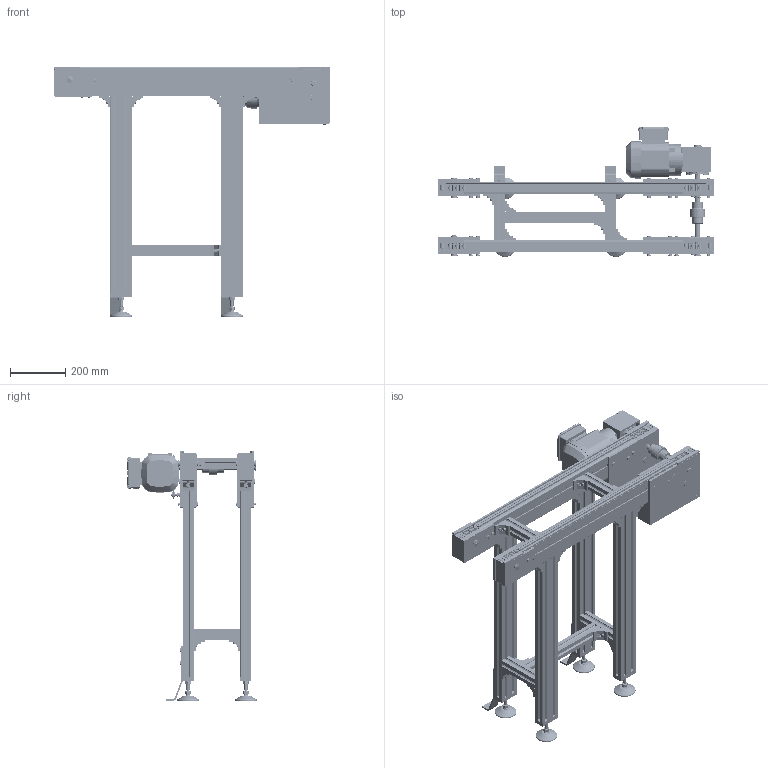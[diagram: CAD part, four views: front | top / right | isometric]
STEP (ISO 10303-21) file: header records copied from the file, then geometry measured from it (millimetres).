
FILE_DESCRIPTION(/* description */ (''),/* implementation_level */ '2;1');
FILE_NAME(/* name */ 'C:\Marketing\01_Versamove-SPU_STEP-Dateien-Homepage\VersamoveStandard\B240\STEP-Dateien\Staurollenförderer_SRF-P-2045_B240_L1000.stp',/* time_stamp */ '2016-12-15T14:24:05+01:00',/* author */ ('herbert.engels'),/* organization */ (''),/* preprocessor_version */ 'ST-DEVELOPER v15.6',/* originating_system */ 'Autodesk Inventor 2015',/* authorisation */ '');
FILE_SCHEMA (('CONFIG_CONTROL_DESIGN'));
Products named in the file (1): Staurollenförderer_Standard_B240_L1000
Bounding box: 1000 x 470.57 x 905.05 mm (x, y, z)
Volume: 18550345.4 mm3; surface area: 4432372.1 mm2
Topology: 7 solids, 7 shells, 5288 faces, 14188 edges, 9142 vertices
Faces by surface type: plane 3230, cylinder 1496, cone 373, torus 123, sphere 50, bspline 16
Full cylindrical faces by diameter (mm): 2 x8, 6 x12, 6.647 x8, 7.323 x4, 8 x66, 8.5 x48, 8.7 x4, 9 x8, 10 x4, 10.066 x1, 11.4 x24, 12 x8, 13 x74, 13.6 x8, 14 x40, 15 x8, 16 x10, 18 x4, 19 x4, 19.77 x4, 20 x17, 25 x1, 25.05 x4, 28 x1, 30 x2, 40 x2, 53 x1, 54 x2, 56 x3, 79 x4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
Entity records: 170121 total; most frequent: CARTESIAN_POINT 33466, ORIENTED_EDGE 26952, DIRECTION 26930, EDGE_CURVE 13467, AXIS2_PLACEMENT_3D 9113, VERTEX_POINT 8971, LINE 8704, VECTOR 8704
